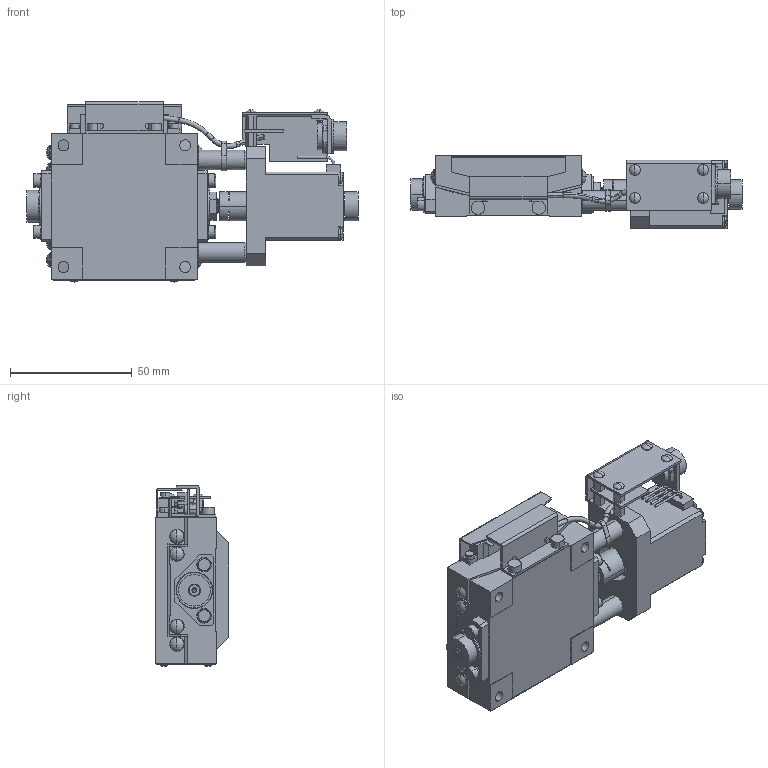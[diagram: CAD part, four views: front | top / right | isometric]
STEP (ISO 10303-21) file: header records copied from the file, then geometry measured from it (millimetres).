
FILE_DESCRIPTION (( 'STEP AP214' ), '1' );
FILE_NAME ('KGB06075M-RT.STEP', '2024-04-16T07:44:01', ( '' ), ( '' ), 'SwSTEP 2.0', 'SolidWorks 2017', '' );
FILE_SCHEMA (( 'AUTOMOTIVE_DESIGN' ));
Length unit declared in the file: millimetre
Products named in the file (5): KGB06075M-RT; KGB-60-T-R; KGB-BASE-06075-R; 60-M-12-R; KGB-TOP-06075-R
Assembly tree (4 placements, depth 2):
  KGB06075M-RT
    KGB-BASE-06075-R
    KGB-TOP-06075-R
    KGB-60-T-R
    60-M-12-R
Bounding box: 136.4 x 30 x 74.3 mm (x, y, z)
Volume: 135168.7 mm3; surface area: 50247.2 mm2
Topology: 4 solids, 35 shells, 1051 faces, 2499 edges, 1607 vertices
Faces by surface type: plane 443, cylinder 398, cone 110, torus 44, sphere 36, bspline 20
Entity records: 31865 total; most frequent: CARTESIAN_POINT 6288, DIRECTION 5607, ORIENTED_EDGE 4942, EDGE_CURVE 2471, AXIS2_PLACEMENT_3D 2176, VERTEX_POINT 1607, LINE 1255, VECTOR 1255
